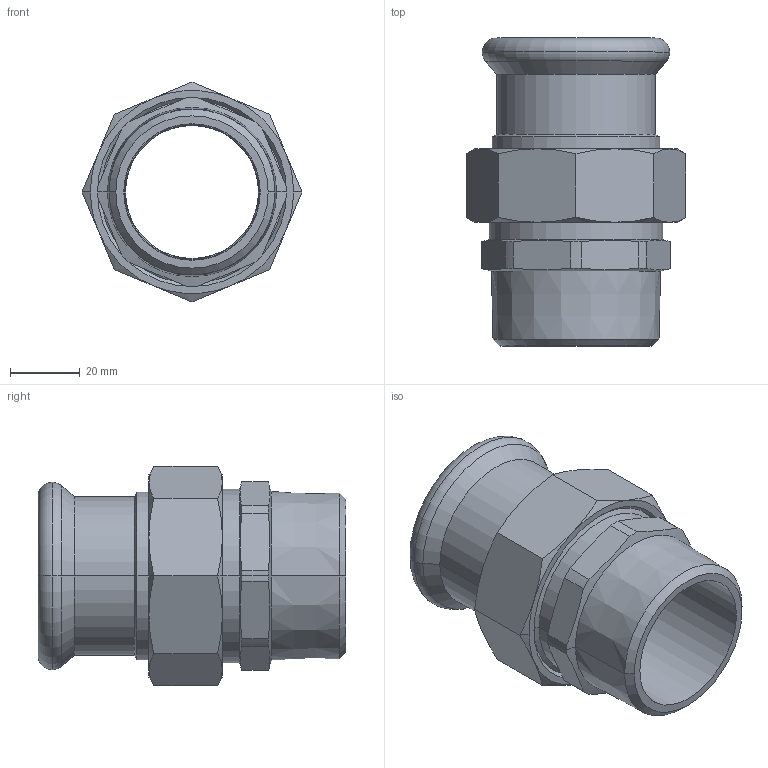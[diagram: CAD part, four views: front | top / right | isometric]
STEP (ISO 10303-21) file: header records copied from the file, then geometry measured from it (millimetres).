
FILE_DESCRIPTION(('CoCreate Modeling STEP Export'),'2;1');
FILE_NAME('C1435 42xR1 1-2.stp','2014-11-12T16:33:05',(''),(''),'CoCreate Modeling STEP processor for AP214 (Solid Model)','CoCreate Modeling 17.00A 17-Jun-2010 (C) Parametric Technology GmbH','');
FILE_SCHEMA(('AUTOMOTIVE_DESIGN { 1 0 10303 214 1 1 1 1 }'));
Length unit declared in the file: millimetre
Products named in the file (2): C1435_42xR1_1-2
Assembly tree (1 placements, depth 2):
  C1435_42xR1_1-2
    C1435_42xR1_1-2
Bounding box: 62.78 x 88 x 62.78 mm (x, y, z)
Volume: 66526 mm3; surface area: 33131.3 mm2
Topology: 1 solids, 1 shells, 112 faces, 248 edges, 144 vertices
Faces by surface type: cone 48, cylinder 32, plane 24, torus 8
Entity records: 4623 total; most frequent: CARTESIAN_POINT 2508, ORIENTED_EDGE 496, DIRECTION 328, EDGE_CURVE 248, VERTEX_POINT 144, AXIS2_PLACEMENT_3D 124, EDGE_LOOP 120, FACE_OUTER_BOUND 112
